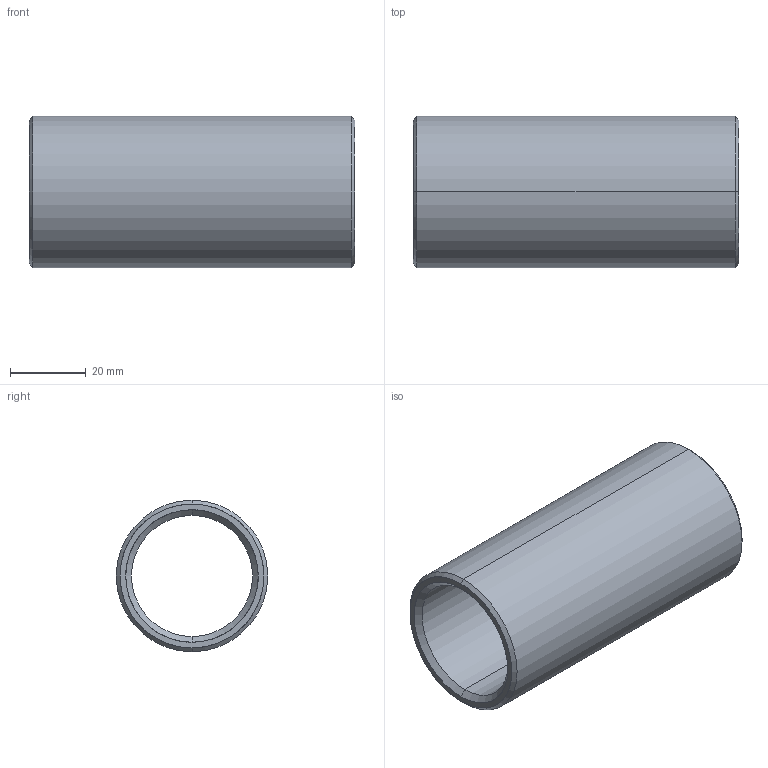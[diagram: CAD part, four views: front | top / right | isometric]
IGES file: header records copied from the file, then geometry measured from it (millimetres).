
Start section: START RECORD GO HERE.
Global section: file name: 352-32X86.igs; native system: DASSAULT SYSTEMES CATIA V5 R20 - www.3ds.com; preprocessor: CATIA Version 5 Release 20 ; author: Utente; organization: NB04-ASUS; date: 20210414.165910; units: millimetre
Bounding box: 86 x 40 x 40 mm (x, y, z)
Surface area: 20079.6 mm2 (no closed solid volume)
Topology: 0 solids, 0 shells, 14 faces, 88 edges, 88 vertices
Faces by surface type: revolution 12, plane 2
